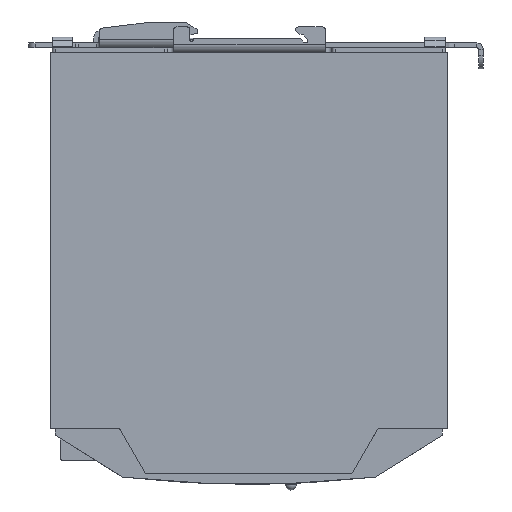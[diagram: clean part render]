
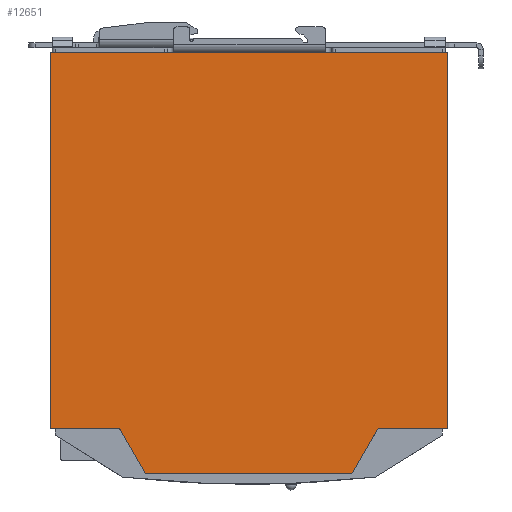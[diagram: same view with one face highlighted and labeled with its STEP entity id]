
A CAD part, front view. The second image highlights one B-rep face of the part: STEP entity #12651.
In plain terms, the highlighted planar face has unit normal (0, -1, 0).
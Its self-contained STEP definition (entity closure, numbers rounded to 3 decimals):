
#397=PLANE('',#13614);
#1003=LINE('',#20793,#2184);
#1035=LINE('',#20957,#2216);
#1037=LINE('',#20960,#2218);
#1146=LINE('',#21226,#2327);
#1147=LINE('',#21240,#2328);
#1163=LINE('',#21300,#2344);
#1167=LINE('',#21308,#2348);
#1169=LINE('',#21311,#2350);
#2184=VECTOR('',#15540,16.177);
#2216=VECTOR('',#15620,16.177);
#2218=VECTOR('',#15624,64.023);
#2327=VECTOR('',#15859,21.4);
#2328=VECTOR('',#15884,21.4);
#2344=VECTOR('',#15946,116.6);
#2348=VECTOR('',#15954,116.6);
#2350=VECTOR('',#15958,123.);
#3623=FACE_OUTER_BOUND('',#4370,.T.);
#4370=EDGE_LOOP('',(#9803,#9804,#9805,#9806,#9807,#9808,#9809,#9810));
#5618=VERTEX_POINT('',#20790);
#5619=VERTEX_POINT('',#20792);
#5648=VERTEX_POINT('',#20954);
#5649=VERTEX_POINT('',#20956);
#5733=VERTEX_POINT('',#21224);
#5734=VERTEX_POINT('',#21239);
#5755=VERTEX_POINT('',#21299);
#5757=VERTEX_POINT('',#21306);
#6968=EDGE_CURVE('',#5618,#5619,#1003,.T.);
#7010=EDGE_CURVE('',#5648,#5649,#1035,.T.);
#7012=EDGE_CURVE('',#5649,#5618,#1037,.T.);
#7137=EDGE_CURVE('',#5733,#5648,#1146,.T.);
#7138=EDGE_CURVE('',#5619,#5734,#1147,.T.);
#7164=EDGE_CURVE('',#5734,#5755,#1163,.T.);
#7168=EDGE_CURVE('',#5757,#5733,#1167,.T.);
#7170=EDGE_CURVE('',#5755,#5757,#1169,.T.);
#9803=ORIENTED_EDGE('',*,*,#7010,.F.);
#9804=ORIENTED_EDGE('',*,*,#7137,.F.);
#9805=ORIENTED_EDGE('',*,*,#7168,.F.);
#9806=ORIENTED_EDGE('',*,*,#7170,.F.);
#9807=ORIENTED_EDGE('',*,*,#7164,.F.);
#9808=ORIENTED_EDGE('',*,*,#7138,.F.);
#9809=ORIENTED_EDGE('',*,*,#6968,.F.);
#9810=ORIENTED_EDGE('',*,*,#7012,.F.);
#12651=ADVANCED_FACE('',(#3623),#397,.F.);
#13614=AXIS2_PLACEMENT_3D('',#21408,#16025,#16026);
#15540=DIRECTION('',(-0.5,0.,0.866));
#15620=DIRECTION('',(-0.5,0.,-0.866));
#15624=DIRECTION('',(-1.,0.,0.));
#15859=DIRECTION('',(-1.,0.,0.));
#15884=DIRECTION('',(-1.,0.,0.));
#15946=DIRECTION('',(0.,0.,1.));
#15954=DIRECTION('',(0.,0.,-1.));
#15958=DIRECTION('',(1.,0.,0.));
#16025=DIRECTION('center_axis',(0.,1.,0.));
#16026=DIRECTION('ref_axis',(0.,0.,1.));
#20790=CARTESIAN_POINT('',(-24.73,-22.849,-64.258));
#20792=CARTESIAN_POINT('',(-32.818,-22.849,-50.248));
#20793=CARTESIAN_POINT('',(-24.73,-22.849,-64.258));
#20954=CARTESIAN_POINT('',(47.382,-22.849,-50.248));
#20956=CARTESIAN_POINT('',(39.293,-22.849,-64.258));
#20957=CARTESIAN_POINT('',(47.382,-22.849,-50.248));
#20960=CARTESIAN_POINT('',(39.293,-22.849,-64.258));
#21224=CARTESIAN_POINT('',(68.782,-22.849,-50.248));
#21226=CARTESIAN_POINT('',(68.782,-22.849,-50.248));
#21239=CARTESIAN_POINT('',(-54.218,-22.849,-50.248));
#21240=CARTESIAN_POINT('',(-32.818,-22.849,-50.248));
#21299=CARTESIAN_POINT('',(-54.218,-22.849,66.352));
#21300=CARTESIAN_POINT('',(-54.218,-22.849,-50.248));
#21306=CARTESIAN_POINT('',(68.782,-22.849,66.352));
#21308=CARTESIAN_POINT('',(68.782,-22.849,66.352));
#21311=CARTESIAN_POINT('',(-54.218,-22.849,66.352));
#21408=CARTESIAN_POINT('Origin',(7.282,-22.849,-56.612));
